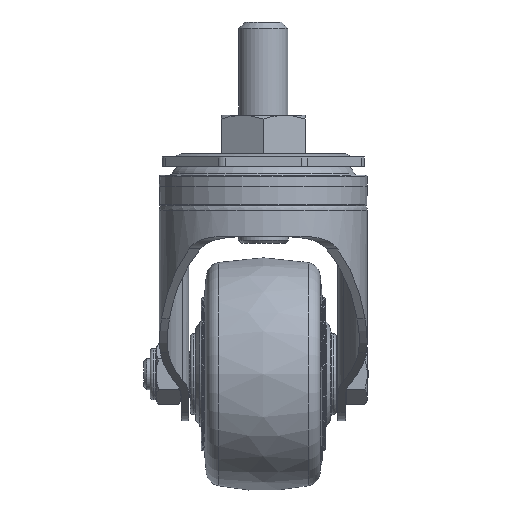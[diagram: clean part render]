
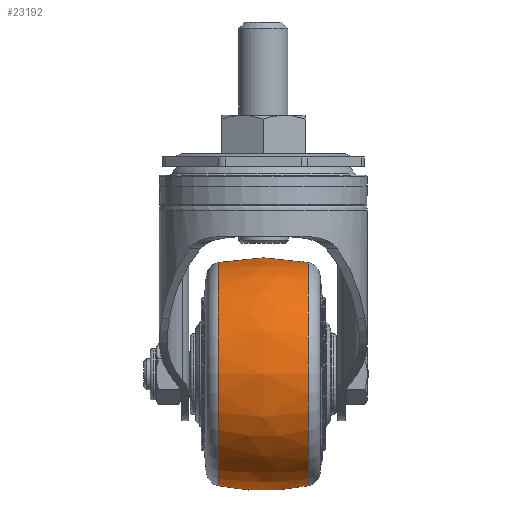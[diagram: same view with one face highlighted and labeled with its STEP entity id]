
A CAD part, left-side view. The second image highlights one B-rep face of the part: STEP entity #23192.
In plain terms, the highlighted free-form (B-spline) face has degree [2, 2] with [3, 9] control points.
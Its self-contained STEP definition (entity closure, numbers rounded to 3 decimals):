
#15=(
BOUNDED_SURFACE()
B_SPLINE_SURFACE(2,2,((#43595,#43596,#43597,#43598,#43599,#43600,#43601,
#43602,#43603),(#43604,#43605,#43606,#43607,#43608,#43609,#43610,#43611,
#43612),(#43613,#43614,#43615,#43616,#43617,#43618,#43619,#43620,#43621)),
 .UNSPECIFIED.,.F.,.T.,.F.)
B_SPLINE_SURFACE_WITH_KNOTS((3,3),(3,2,2,2,3),(-0.208,0.208),
(-3.142,-1.571,0.,1.571,3.142),
 .UNSPECIFIED.)
GEOMETRIC_REPRESENTATION_ITEM()
RATIONAL_B_SPLINE_SURFACE(((1.,0.707,1.,0.707,1.,
0.707,1.,0.707,1.),(0.978,0.692,
0.978,0.692,0.978,0.692,
0.978,0.692,0.978),(1.,0.707,
1.,0.707,1.,0.707,1.,0.707,1.)))
REPRESENTATION_ITEM('')
SURFACE()
);
#6905=FACE_OUTER_BOUND('',#8303,.T.);
#8303=EDGE_LOOP('',(#21225,#21226,#21227,#21228));
#8596=CIRCLE('',#24342,35.992);
#8615=CIRCLE('',#24370,35.992);
#8617=CIRCLE('',#24372,70.);
#10890=VERTEX_POINT('',#43545);
#10905=VERTEX_POINT('',#43592);
#14327=EDGE_CURVE('',#10890,#10890,#8596,.T.);
#14349=EDGE_CURVE('',#10905,#10905,#8615,.T.);
#14351=EDGE_CURVE('',#10890,#10905,#8617,.T.);
#21225=ORIENTED_EDGE('',*,*,#14327,.F.);
#21226=ORIENTED_EDGE('',*,*,#14351,.T.);
#21227=ORIENTED_EDGE('',*,*,#14349,.T.);
#21228=ORIENTED_EDGE('',*,*,#14351,.F.);
#23192=ADVANCED_FACE('',(#6905),#15,.F.);
#24342=AXIS2_PLACEMENT_3D('',#43547,#28329,#28330);
#24370=AXIS2_PLACEMENT_3D('',#43593,#28388,#28389);
#24372=AXIS2_PLACEMENT_3D('',#43622,#28392,#28393);
#28329=DIRECTION('center_axis',(0.,-1.,0.));
#28330=DIRECTION('ref_axis',(0.,0.,
1.));
#28388=DIRECTION('center_axis',(0.,-1.,0.));
#28389=DIRECTION('ref_axis',(0.,0.,
1.));
#28392=DIRECTION('center_axis',(1.,0.,0.));
#28393=DIRECTION('ref_axis',(0.,0.,
-1.));
#43545=CARTESIAN_POINT('',(40.,-14.451,-107.292));
#43547=CARTESIAN_POINT('Origin',(40.,-14.451,-71.3));
#43592=CARTESIAN_POINT('',(40.,14.451,-107.292));
#43593=CARTESIAN_POINT('Origin',(40.,14.451,-71.3));
#43595=CARTESIAN_POINT('Ctrl Pts',(40.,14.451,-107.292));
#43596=CARTESIAN_POINT('Ctrl Pts',(75.992,14.451,-107.292));
#43597=CARTESIAN_POINT('Ctrl Pts',(75.992,14.451,-71.3));
#43598=CARTESIAN_POINT('Ctrl Pts',(75.992,14.451,-35.308));
#43599=CARTESIAN_POINT('Ctrl Pts',(40.,14.451,-35.308));
#43600=CARTESIAN_POINT('Ctrl Pts',(4.008,14.451,-35.308));
#43601=CARTESIAN_POINT('Ctrl Pts',(4.008,14.451,-71.3));
#43602=CARTESIAN_POINT('Ctrl Pts',(4.008,14.451,-107.292));
#43603=CARTESIAN_POINT('Ctrl Pts',(40.,14.451,-107.292));
#43604=CARTESIAN_POINT('Ctrl Pts',(40.,0.,
-110.341));
#43605=CARTESIAN_POINT('Ctrl Pts',(79.041,0.,
-110.341));
#43606=CARTESIAN_POINT('Ctrl Pts',(79.041,0.,
-71.3));
#43607=CARTESIAN_POINT('Ctrl Pts',(79.041,0.,
-32.259));
#43608=CARTESIAN_POINT('Ctrl Pts',(40.,0.,
-32.259));
#43609=CARTESIAN_POINT('Ctrl Pts',(0.959,0.,
-32.259));
#43610=CARTESIAN_POINT('Ctrl Pts',(0.959,0.,
-71.3));
#43611=CARTESIAN_POINT('Ctrl Pts',(0.959,0.,
-110.341));
#43612=CARTESIAN_POINT('Ctrl Pts',(40.,0.,
-110.341));
#43613=CARTESIAN_POINT('Ctrl Pts',(40.,-14.451,-107.292));
#43614=CARTESIAN_POINT('Ctrl Pts',(75.992,-14.451,-107.292));
#43615=CARTESIAN_POINT('Ctrl Pts',(75.992,-14.451,-71.3));
#43616=CARTESIAN_POINT('Ctrl Pts',(75.992,-14.451,-35.308));
#43617=CARTESIAN_POINT('Ctrl Pts',(40.,-14.451,-35.308));
#43618=CARTESIAN_POINT('Ctrl Pts',(4.008,-14.451,-35.308));
#43619=CARTESIAN_POINT('Ctrl Pts',(4.008,-14.451,-71.3));
#43620=CARTESIAN_POINT('Ctrl Pts',(4.008,-14.451,-107.292));
#43621=CARTESIAN_POINT('Ctrl Pts',(40.,-14.451,-107.292));
#43622=CARTESIAN_POINT('Origin',(40.,0.,
-38.8));
